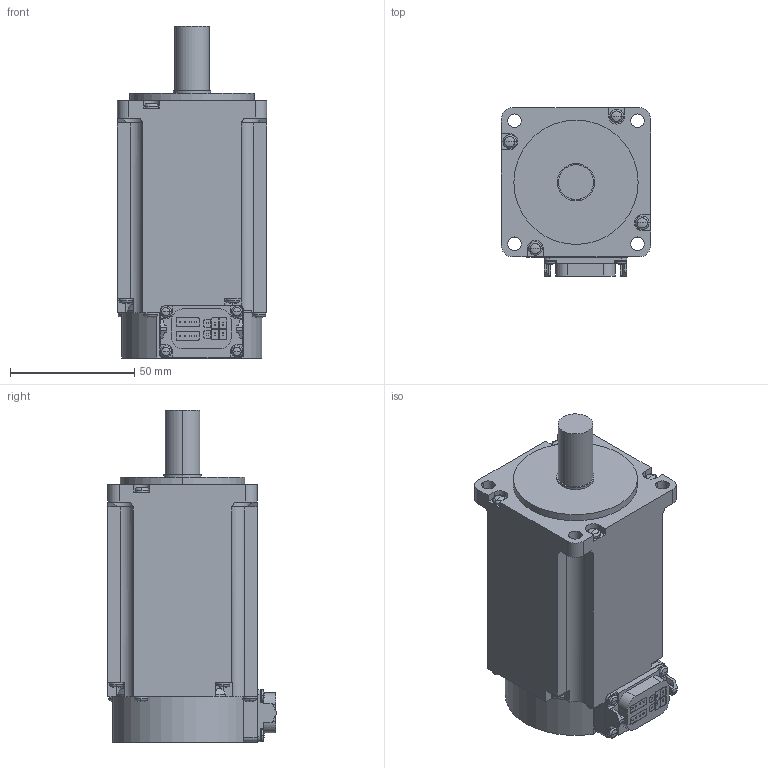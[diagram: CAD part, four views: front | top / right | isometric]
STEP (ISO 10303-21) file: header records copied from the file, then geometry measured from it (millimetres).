
FILE_DESCRIPTION((''),'2;1');
FILE_NAME('HK-KT63W_-_ASM','2019-01-15T',('XE90682'),(''),'CREO PARAMETRIC BY PTC INC, 2016380','CREO PARAMETRIC BY PTC INC, 2016380','');
FILE_SCHEMA(('CONFIG_CONTROL_DESIGN'));
Length unit declared in the file: millimetre
Products named in the file (1): HK-KT63W_-_ASM
Bounding box: 60 x 67.65 x 133.5 mm (x, y, z)
Volume: 335885.7 mm3; surface area: 33683.2 mm2
Topology: 1 solids, 1 shells, 401 faces, 1042 edges, 654 vertices
Faces by surface type: plane 221, cylinder 113, torus 32, sphere 32, cone 3
Entity records: 12244 total; most frequent: CARTESIAN_POINT 2284, DIRECTION 2120, ORIENTED_EDGE 2020, EDGE_CURVE 1010, AXIS2_PLACEMENT_3D 726, VECTOR 668, LINE 668, VERTEX_POINT 654
